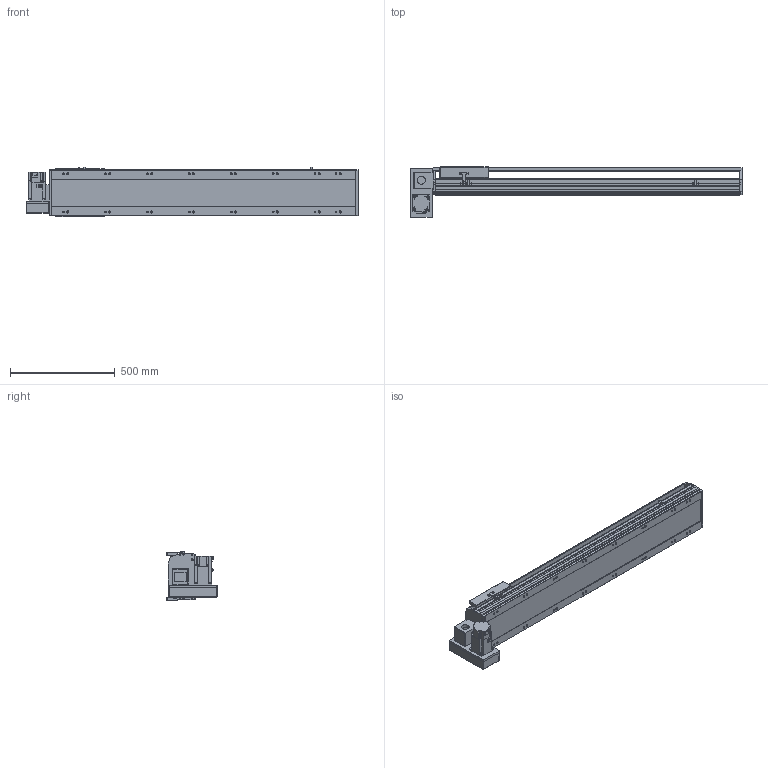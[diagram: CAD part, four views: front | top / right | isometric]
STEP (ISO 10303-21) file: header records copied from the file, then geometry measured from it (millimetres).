
FILE_DESCRIPTION(/* description */ ('STEP AP214'),/* implementation_level */ '2;1');
FILE_NAME(/* name */ 'PBS220-P40-S1100-LD-T75-C1-N(0)',/* time_stamp */ '2022-06-27T09:43:47+02:00',/* author */ ('License CC BY-ND 4.0'),/* organization */ ('CADENAS'),/* preprocessor_version */ 'ST-DEVELOPER v18.102',/* originating_system */ 'PARTsolutions',/* authorisation */ ' ');
FILE_SCHEMA (('AUTOMOTIVE_DESIGN {1 0 10303 214 3 1 1}'));
Length unit declared in the file: millimetre
Products named in the file (7): PBS220-P40-S1100-LD-T75-C1-N(0); PBS220_sensor; PBS220_plant; PBS220_sliser; T75-p1; PBS220T-LD_motors; PBS220-S1100()_body
Assembly tree (8 placements, depth 2):
  PBS220-P40-S1100-LD-T75-C1-N(0)
    PBS220_sensor  x3
    PBS220_plant
    PBS220_sliser
    T75-p1
    PBS220T-LD_motors
    PBS220-S1100()_body
Bounding box: 1584 x 239 x 238.5 mm (x, y, z)
Volume: 22802339.6 mm3; surface area: 2215470.9 mm2
Topology: 8 solids, 8 shells, 914 faces, 2396 edges, 1558 vertices
Faces by surface type: plane 598, cylinder 276, cone 40
Full cylindrical faces by diameter (mm): 2.013 x4, 4.5 x14, 4.917 x4, 6 x7, 6.647 x8, 8 x10, 8.376 x16, 8.5 x16, 10 x6, 14 x16, 38 x2, 40 x1, 70 x1
Entity records: 25628 total; most frequent: CARTESIAN_POINT 4492, DIRECTION 4455, ORIENTED_EDGE 4106, EDGE_CURVE 2053, AXIS2_PLACEMENT_3D 1555, VERTEX_POINT 1416, LINE 1345, VECTOR 1345
